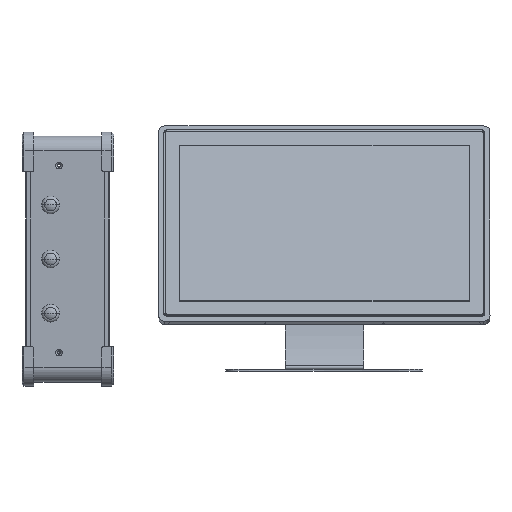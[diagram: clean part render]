
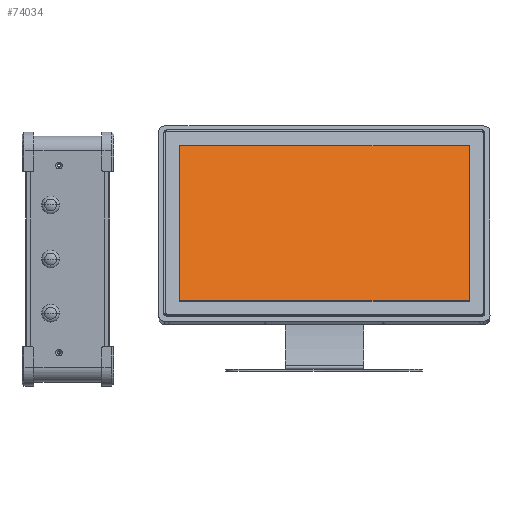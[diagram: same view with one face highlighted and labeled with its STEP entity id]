
A CAD part, front view. The second image highlights one B-rep face of the part: STEP entity #74034.
In plain terms, the highlighted planar face has unit normal (0, -0.953, 0.304).
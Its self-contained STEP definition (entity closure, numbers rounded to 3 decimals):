
#570 = PLANE ( 'NONE',  #44354 ) ;
#1351 = CARTESIAN_POINT ( 'NONE',  ( 539.694, -25.223, 61.39 ) ) ;
#1588 = VERTEX_POINT ( 'NONE', #38835 ) ;
#2587 = EDGE_CURVE ( 'NONE', #3590, #81959, #40736, .T. ) ;
#2754 = ORIENTED_EDGE ( 'NONE', *, *, #38346, .T. ) ;
#3590 = VERTEX_POINT ( 'NONE', #70368 ) ;
#3939 = CARTESIAN_POINT ( 'NONE',  ( 539.694, 25.186, 219.236 ) ) ;
#7093 = EDGE_CURVE ( 'NONE', #81959, #27962, #58414, .T. ) ;
#10590 = VECTOR ( 'NONE', #57435, 1000. ) ;
#13672 = VECTOR ( 'NONE', #27491, 1000. ) ;
#13871 = CARTESIAN_POINT ( 'NONE',  ( 686.794, -0.018, 140.313 ) ) ;
#13915 = VECTOR ( 'NONE', #67727, 1000. ) ;
#19856 = DIRECTION ( 'NONE',  ( 0., -0.304, -0.953 ) ) ;
#25333 = LINE ( 'NONE', #3939, #10590 ) ;
#27491 = DIRECTION ( 'NONE',  ( 1., 0., 0. ) ) ;
#27962 = VERTEX_POINT ( 'NONE', #81319 ) ;
#30854 = VECTOR ( 'NONE', #51978, 1000. ) ;
#33418 = EDGE_CURVE ( 'NONE', #27962, #1588, #25333, .T. ) ;
#38346 = EDGE_CURVE ( 'NONE', #1588, #3590, #61724, .T. ) ;
#38835 = CARTESIAN_POINT ( 'NONE',  ( 539.694, 25.186, 219.236 ) ) ;
#40736 = LINE ( 'NONE', #1351, #13672 ) ;
#42433 = CARTESIAN_POINT ( 'NONE',  ( 539.694, -25.223, 61.39 ) ) ;
#44354 = AXIS2_PLACEMENT_3D ( 'NONE', #13871, #78099, #19856 ) ;
#50152 = EDGE_LOOP ( 'NONE', ( #60166, #73148, #2754, #69758 ) ) ;
#51978 = DIRECTION ( 'NONE',  ( 0., 0.304, 0.953 ) ) ;
#52378 = FACE_OUTER_BOUND ( 'NONE', #50152, .T. ) ;
#57435 = DIRECTION ( 'NONE',  ( -1., 0., 0. ) ) ;
#58414 = LINE ( 'NONE', #84542, #30854 ) ;
#60166 = ORIENTED_EDGE ( 'NONE', *, *, #7093, .T. ) ;
#61724 = LINE ( 'NONE', #42433, #13915 ) ;
#67727 = DIRECTION ( 'NONE',  ( 0., -0.304, -0.953 ) ) ;
#69758 = ORIENTED_EDGE ( 'NONE', *, *, #2587, .T. ) ;
#70368 = CARTESIAN_POINT ( 'NONE',  ( 539.694, -25.223, 61.39 ) ) ;
#73148 = ORIENTED_EDGE ( 'NONE', *, *, #33418, .T. ) ;
#74034 = ADVANCED_FACE ( 'NONE', ( #52378 ), #570, .F. ) ;
#78099 = DIRECTION ( 'NONE',  ( 0., 0.953, -0.304 ) ) ;
#81319 = CARTESIAN_POINT ( 'NONE',  ( 833.894, 25.186, 219.236 ) ) ;
#81398 = CARTESIAN_POINT ( 'NONE',  ( 833.894, -25.223, 61.39 ) ) ;
#81959 = VERTEX_POINT ( 'NONE', #81398 ) ;
#84542 = CARTESIAN_POINT ( 'NONE',  ( 833.894, -25.223, 61.39 ) ) ;
